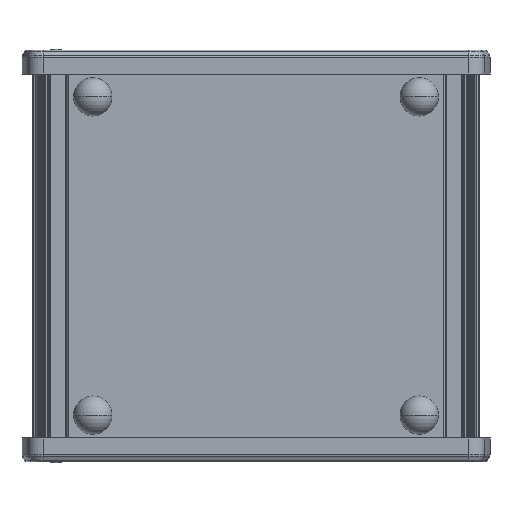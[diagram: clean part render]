
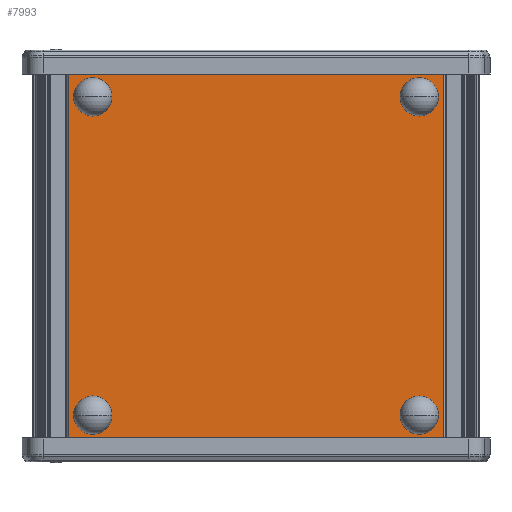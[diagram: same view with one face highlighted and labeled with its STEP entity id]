
A CAD part, front view. The second image highlights one B-rep face of the part: STEP entity #7993.
In plain terms, the highlighted planar face has unit normal (0, -1, 0).
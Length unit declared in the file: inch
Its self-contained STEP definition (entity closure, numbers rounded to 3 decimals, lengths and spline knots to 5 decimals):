
#1160 = EDGE_CURVE ( 'NONE', #9910, #13032, #18238, .T. ) ;
#1704 = CARTESIAN_POINT ( 'NONE',  ( -2.31296, -0.68898, 2.3622 ) ) ;
#1963 = FACE_OUTER_BOUND ( 'NONE', #6920, .T. ) ;
#3267 = DIRECTION ( 'NONE',  ( 1., 0., 0. ) ) ;
#3415 = DIRECTION ( 'NONE',  ( 0., 1., 0. ) ) ;
#3612 = VERTEX_POINT ( 'NONE', #4957 ) ;
#3829 = DIRECTION ( 'NONE',  ( 0., 0., -1. ) ) ;
#4012 = VECTOR ( 'NONE', #3829, 39.37008 ) ;
#4957 = CARTESIAN_POINT ( 'NONE',  ( -2.31296, -0.68898, 2.3622 ) ) ;
#5110 = ORIENTED_EDGE ( 'NONE', *, *, #6072, .T. ) ;
#5218 = VECTOR ( 'NONE', #8530, 39.37008 ) ;
#5579 = LINE ( 'NONE', #10984, #6782 ) ;
#6072 = EDGE_CURVE ( 'NONE', #3612, #19725, #13530, .T. ) ;
#6706 = LINE ( 'NONE', #12704, #12085 ) ;
#6782 = VECTOR ( 'NONE', #3267, 39.37008 ) ;
#6920 = EDGE_LOOP ( 'NONE', ( #19862, #14890, #19864, #5110 ) ) ;
#6944 = CARTESIAN_POINT ( 'NONE',  ( 2.31296, -0.68898, 2.3622 ) ) ;
#7981 = CARTESIAN_POINT ( 'NONE',  ( 2.31296, -0.68898, 2.3622 ) ) ;
#7993 = ADVANCED_FACE ( 'NONE', ( #1963 ), #9550, .F. ) ;
#8530 = DIRECTION ( 'NONE',  ( 0., 0., -1. ) ) ;
#9550 = PLANE ( 'NONE',  #11442 ) ;
#9910 = VERTEX_POINT ( 'NONE', #7981 ) ;
#10257 = EDGE_CURVE ( 'NONE', #3612, #9910, #5579, .T. ) ;
#10984 = CARTESIAN_POINT ( 'NONE',  ( -2.31296, -0.68898, 2.3622 ) ) ;
#11442 = AXIS2_PLACEMENT_3D ( 'NONE', #1704, #3415, #17529 ) ;
#11701 = CARTESIAN_POINT ( 'NONE',  ( -2.31296, -0.68898, 2.3622 ) ) ;
#12085 = VECTOR ( 'NONE', #19035, 39.37008 ) ;
#12407 = EDGE_CURVE ( 'NONE', #19725, #13032, #6706, .T. ) ;
#12704 = CARTESIAN_POINT ( 'NONE',  ( -2.31296, -0.68898, -2.3622 ) ) ;
#13032 = VERTEX_POINT ( 'NONE', #17650 ) ;
#13530 = LINE ( 'NONE', #11701, #5218 ) ;
#14890 = ORIENTED_EDGE ( 'NONE', *, *, #1160, .F. ) ;
#17173 = CARTESIAN_POINT ( 'NONE',  ( -2.31296, -0.68898, -2.3622 ) ) ;
#17529 = DIRECTION ( 'NONE',  ( -1., 0., 0. ) ) ;
#17650 = CARTESIAN_POINT ( 'NONE',  ( 2.31296, -0.68898, -2.3622 ) ) ;
#18238 = LINE ( 'NONE', #6944, #4012 ) ;
#19035 = DIRECTION ( 'NONE',  ( 1., 0., 0. ) ) ;
#19725 = VERTEX_POINT ( 'NONE', #17173 ) ;
#19862 = ORIENTED_EDGE ( 'NONE', *, *, #12407, .T. ) ;
#19864 = ORIENTED_EDGE ( 'NONE', *, *, #10257, .F. ) ;
